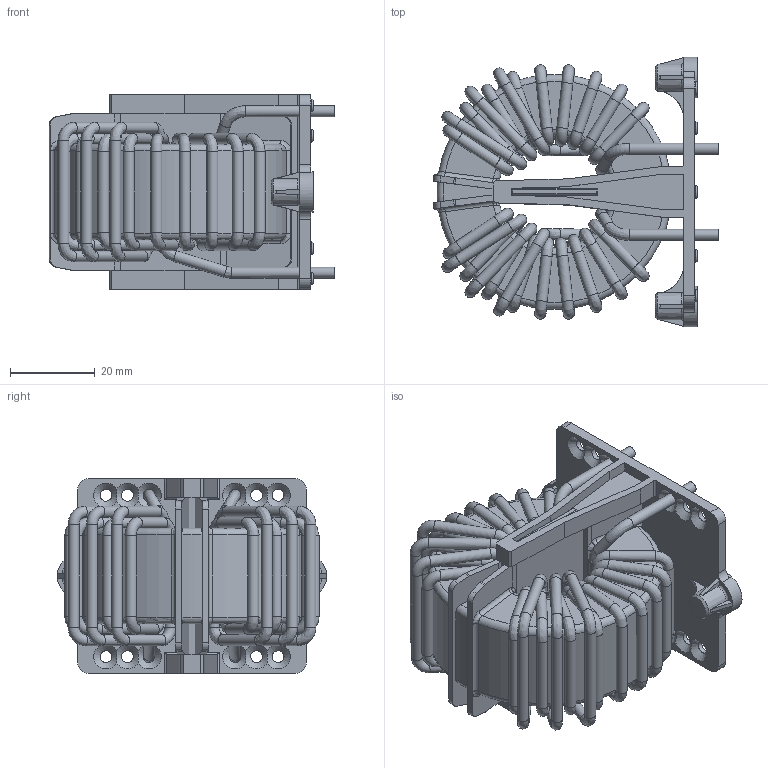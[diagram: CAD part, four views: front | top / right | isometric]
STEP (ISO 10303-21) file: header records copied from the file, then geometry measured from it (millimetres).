
FILE_DESCRIPTION((''),'2;1');
FILE_NAME('K:\Development\Projects\RB\Angel_standard choke series 2011\70_Realization_Revision\702_MechanicalDesign\Drawing for Harald\RB8522-25-2M0.stp','2012-10-29T14:36:50',('Fiona.chen'),(''),'Autodesk Inventor 2010','Autodesk Inventor 2010','');
FILE_SCHEMA(('AUTOMOTIVE_DESIGN { 1 0 10303 214 1 1 1 1 }'));
Length unit declared in the file: millimetre
Products named in the file (1): 零件15
Bounding box: 67.34 x 63.58 x 45.9 mm (x, y, z)
Volume: 64296.1 mm3; surface area: 38479.2 mm2
Topology: 1 solids, 1 shells, 1043 faces, 2925 edges, 1796 vertices
Faces by surface type: plane 458, cylinder 230, torus 160, bspline 157, cone 38
Full cylindrical faces by diameter (mm): 2.6 x37, 2.8 x12, 3 x8, 9.6 x2
Entity records: 40824 total; most frequent: CARTESIAN_POINT 15667, ORIENTED_EDGE 5506, DIRECTION 4697, EDGE_CURVE 2753, VERTEX_POINT 1752, AXIS2_PLACEMENT_3D 1707, VECTOR 1283, LINE 1283
